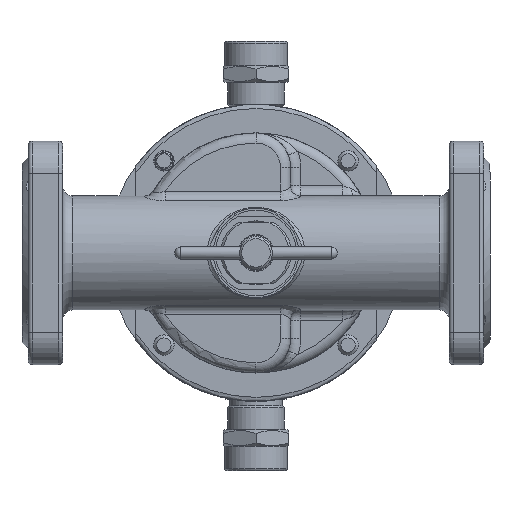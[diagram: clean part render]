
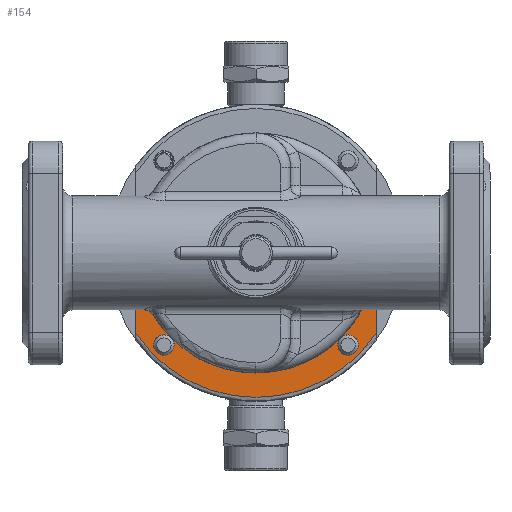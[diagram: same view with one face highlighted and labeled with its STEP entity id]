
A CAD part, front view. The second image highlights one B-rep face of the part: STEP entity #154.
In plain terms, the highlighted planar face has unit normal (0, -1, 0).
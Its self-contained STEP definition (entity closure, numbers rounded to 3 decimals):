
#154=ADVANCED_FACE('',(#4393),#4395,.F.);
#4393=FACE_OUTER_BOUND('',#4394,.T.);
#4394=EDGE_LOOP('',(#21528,#21529,#21530,#21531,#21532,#21533,#21534,#21535,#21536,
#21537));
#4395=PLANE('',#4396);
#4396=AXIS2_PLACEMENT_3D('',#4397,#4398,#4399);
#4397=CARTESIAN_POINT('',(0.,39.5,0.));
#4398=DIRECTION('',(0.,1.,0.));
#4399=DIRECTION('',(-1.,0.,0.));
#21528=ORIENTED_EDGE('',*,*,#32962,.F.);
#21529=ORIENTED_EDGE('',*,*,#32963,.F.);
#21530=ORIENTED_EDGE('',*,*,#32863,.F.);
#21531=ORIENTED_EDGE('',*,*,#32885,.F.);
#21532=ORIENTED_EDGE('',*,*,#32964,.F.);
#21533=ORIENTED_EDGE('',*,*,#32877,.F.);
#21534=ORIENTED_EDGE('',*,*,#32865,.F.);
#21535=ORIENTED_EDGE('',*,*,#32965,.F.);
#21536=ORIENTED_EDGE('',*,*,#32966,.F.);
#21537=ORIENTED_EDGE('',*,*,#32864,.F.);
#32863=EDGE_CURVE('',#37786,#37874,#37875,.T.);
#32864=EDGE_CURVE('',#37874,#37876,#37877,.T.);
#32865=EDGE_CURVE('',#37876,#37780,#37878,.T.);
#32877=EDGE_CURVE('',#37780,#37899,#37900,.T.);
#32885=EDGE_CURVE('',#37912,#37786,#37914,.T.);
#32962=EDGE_CURVE('',#38038,#37874,#38039,.T.);
#32963=EDGE_CURVE('',#37874,#38038,#38040,.T.);
#32964=EDGE_CURVE('',#37899,#37912,#38041,.T.);
#32965=EDGE_CURVE('',#38042,#37876,#38043,.T.);
#32966=EDGE_CURVE('',#37876,#38042,#38044,.T.);
#37780=VERTEX_POINT('',#45984);
#37786=VERTEX_POINT('',#45998);
#37874=VERTEX_POINT('',#46252);
#37875=CIRCLE('',#46253,59.);
#37876=VERTEX_POINT('',#46257);
#37877=CIRCLE('',#46258,59.);
#37878=CIRCLE('',#46262,59.);
#37899=VERTEX_POINT('',#46410);
#37900=LINE('',#46411,#46412);
#37912=VERTEX_POINT('',#46542);
#37914=LINE('',#46598,#46599);
#38038=VERTEX_POINT('',#47099);
#38039=CIRCLE('',#47100,5.);
#38040=CIRCLE('',#47104,5.);
#38041=CIRCLE('',#47108,71.);
#38042=VERTEX_POINT('',#47112);
#38043=CIRCLE('',#47113,5.);
#38044=CIRCLE('',#47117,5.);
#45984=CARTESIAN_POINT('',(59.,39.5,0.));
#45998=CARTESIAN_POINT('',(-59.,39.5,0.));
#46252=CARTESIAN_POINT('',(-41.719,39.5,-41.719));
#46253=AXIS2_PLACEMENT_3D('',#46254,#46255,#46256);
#46254=CARTESIAN_POINT('',(0.,39.5,0.));
#46255=DIRECTION('',(0.,-1.,0.));
#46256=DIRECTION('',(-1.,0.,0.));
#46257=CARTESIAN_POINT('',(41.719,39.5,-41.719));
#46258=AXIS2_PLACEMENT_3D('',#46259,#46260,#46261);
#46259=CARTESIAN_POINT('',(0.,39.5,0.));
#46260=DIRECTION('',(0.,-1.,0.));
#46261=DIRECTION('',(-0.707,0.,-0.707));
#46262=AXIS2_PLACEMENT_3D('',#46263,#46264,#46265);
#46263=CARTESIAN_POINT('',(0.,39.5,0.));
#46264=DIRECTION('',(0.,-1.,0.));
#46265=DIRECTION('',(0.707,0.,-0.707));
#46410=CARTESIAN_POINT('',(59.,39.5,-39.497));
#46411=CARTESIAN_POINT('',(59.,39.5,0.));
#46412=VECTOR('',#46413,1.);
#46413=DIRECTION('',(0.,0.,-1.));
#46542=CARTESIAN_POINT('',(-59.,39.5,-39.497));
#46598=CARTESIAN_POINT('',(-59.,39.5,-39.497));
#46599=VECTOR('',#46600,1.);
#46600=DIRECTION('',(0.,0.,1.));
#47099=CARTESIAN_POINT('',(-45.255,39.5,-50.255));
#47100=AXIS2_PLACEMENT_3D('',#47101,#47102,#47103);
#47101=CARTESIAN_POINT('',(-45.255,39.5,-45.255));
#47102=DIRECTION('',(0.,-1.,0.));
#47103=DIRECTION('',(0.,0.,-1.));
#47104=AXIS2_PLACEMENT_3D('',#47105,#47106,#47107);
#47105=CARTESIAN_POINT('',(-45.255,39.5,-45.255));
#47106=DIRECTION('',(0.,-1.,0.));
#47107=DIRECTION('',(0.707,0.,0.707));
#47108=AXIS2_PLACEMENT_3D('',#47109,#47110,#47111);
#47109=CARTESIAN_POINT('',(0.,39.5,0.));
#47110=DIRECTION('',(0.,1.,0.));
#47111=DIRECTION('',(0.831,0.,-0.556));
#47112=CARTESIAN_POINT('',(50.255,39.5,-45.255));
#47113=AXIS2_PLACEMENT_3D('',#47114,#47115,#47116);
#47114=CARTESIAN_POINT('',(45.255,39.5,-45.255));
#47115=DIRECTION('',(0.,-1.,0.));
#47116=DIRECTION('',(1.,0.,0.));
#47117=AXIS2_PLACEMENT_3D('',#47118,#47119,#47120);
#47118=CARTESIAN_POINT('',(45.255,39.5,-45.255));
#47119=DIRECTION('',(0.,-1.,0.));
#47120=DIRECTION('',(-0.707,0.,0.707));
